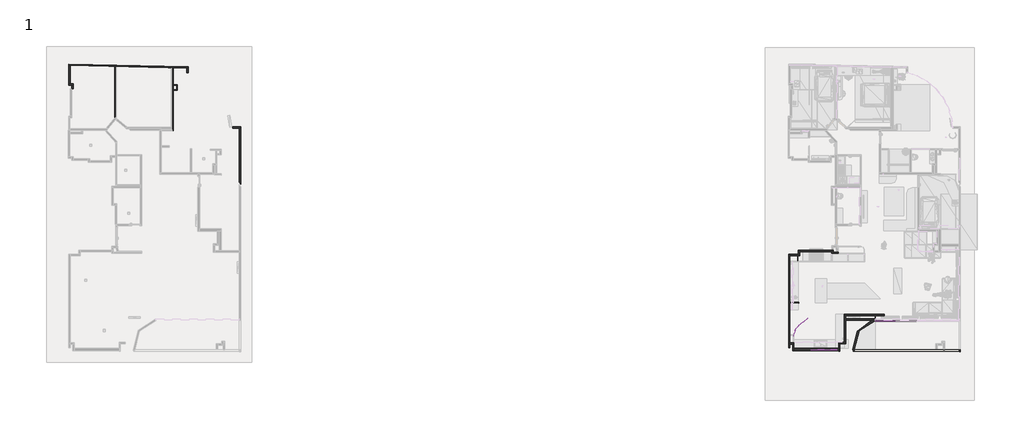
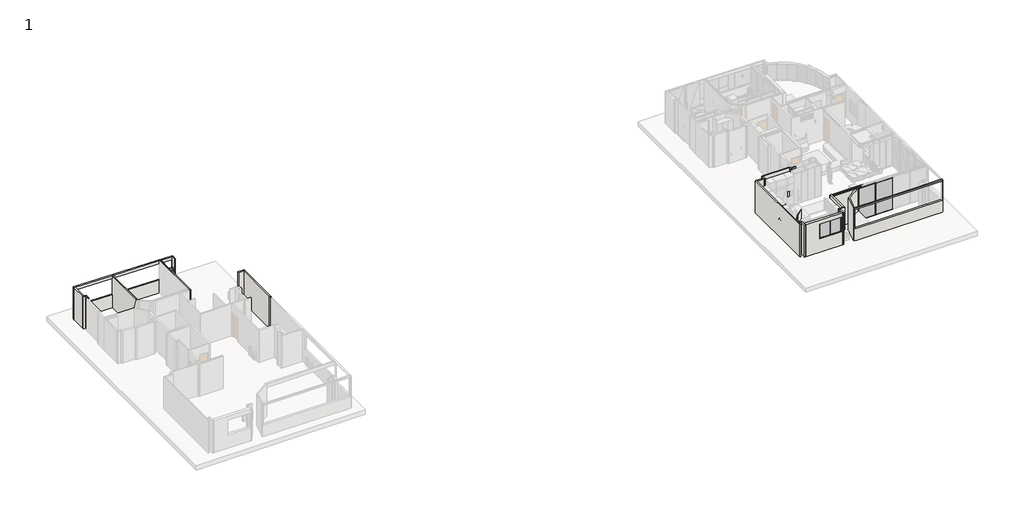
# One storey, part 4 of 11: 40 walls, 12 members, 4 plates.
"""IFC4 building model written with IfcOpenShell, lengths in millimetres."""

from ifc_helpers import new_model, si_unit, point, frame, frame_2d, origin, origin_with_axes, place, context, project, spatial, polyline, circle_curve, trimmed, segment, composite_curve, outline, extrude, faceted_brep, transform, mapped, element, save
from ifc_brep_helpers import plane_surface, cylinder_surface, revolved_surface, advanced_brep
from components import rectangular_mullion_30mm_square_bb45b953, rectangular_mullion_30mm_square_374e1ff5, rectangular_mullion_30mm_square_060a85df, rectangular_mullion_30mm_square_b1d1f039, rectangular_mullion_30mm_square_151e444d, rectangular_mullion_30mm_square_53f41a94, rectangular_mullion_30mm_square_fba6741d

model = new_model("IFC4")

# Units and contexts
model_context = context("Model", 3, world=origin())
ifc_project = project(units=[si_unit("LENGTHUNIT", "METRE", prefix="MILLI")], contexts=[model_context])

# Site, building, storey
site = spatial("IfcSite", under=ifc_project)
building = spatial("IfcBuilding", under=site)
storey = spatial("IfcBuildingStorey", under=building, Name="1", Elevation=0.0)

# Members
placement = place(None, origin())
rectangular_mullion_30mm_square_shape = rectangular_mullion_30mm_square_bb45b953(model_context)
element("IfcMember", 1, ObjectType="Rectangular Mullion : 30mm Square", at=placement, inside=storey, context=model_context, shape_type="MappedRepresentation", body=[
    mapped(rectangular_mullion_30mm_square_shape, transform((93676.9863057, 7842.3363239, 2930.0), x_axis=(-1.0, 0.0, 0.0), y_axis=(0.0, -1.0, 0.0), z_axis=(0.0, 0.0, 1.0))),
])
rectangular_mullion_30mm_square_2_shape = rectangular_mullion_30mm_square_374e1ff5(model_context)
element("IfcMember", 2, ObjectType="Rectangular Mullion : 30mm Square", at=placement, inside=storey, context=model_context, shape_type="MappedRepresentation", body=[
    mapped(rectangular_mullion_30mm_square_2_shape, transform((90984.049878, 5788.1671184, 1223.3570183), x_axis=(1.0, 0.0, 0.0), y_axis=(0.0, -1.0, 0.0), z_axis=(0.0, 0.0, -1.0))),
])
element("IfcMember", 3, ObjectType="Rectangular Mullion : 30mm Square", at=placement, inside=storey, context=model_context, shape_type="MappedRepresentation", body=[
    mapped(rectangular_mullion_30mm_square_2_shape, transform((89144.049878, 5788.1671184, 2557.176167), x_axis=(-1.0, 0.0, 0.0), y_axis=(0.0, -1.0, 0.0), z_axis=(0.0, 0.0, 1.0))),
])
rectangular_mullion_30mm_square_3_shape = rectangular_mullion_30mm_square_060a85df(model_context)
element("IfcMember", 4, ObjectType="Rectangular Mullion : 30mm Square", at=placement, inside=storey, context=model_context, shape_type="MappedRepresentation", body=[
    mapped(rectangular_mullion_30mm_square_3_shape, transform((90954.049878, 5788.1671184, 2557.176167), x_axis=(0.0, 0.0, 1.0), y_axis=(0.0, -1.0, 0.0), z_axis=(1.0, 0.0, 0.0))),
])
element("IfcMember", 5, ObjectType="Rectangular Mullion : 30mm Square", at=placement, inside=storey, context=model_context, shape_type="MappedRepresentation", body=[
    mapped(rectangular_mullion_30mm_square_3_shape, transform((90049.049878, 5788.1671184, 2557.176167), x_axis=(0.0, 0.0, 1.0), y_axis=(0.0, -1.0, 0.0), z_axis=(1.0, 0.0, 0.0))),
])
element("IfcMember", 6, ObjectType="Rectangular Mullion : 30mm Square", at=placement, inside=storey, context=model_context, shape_type="MappedRepresentation", body=[
    mapped(rectangular_mullion_30mm_square_3_shape, transform((89174.049878, 5788.1671184, 1223.3570183), x_axis=(0.0, 0.0, -1.0), y_axis=(0.0, -1.0, 0.0), z_axis=(-1.0, 0.0, 0.0))),
])
element("IfcMember", 7, ObjectType="Rectangular Mullion : 30mm Square", at=placement, inside=storey, context=model_context, shape_type="MappedRepresentation", body=[
    mapped(rectangular_mullion_30mm_square_3_shape, transform((90079.049878, 5788.1671184, 1223.3570183), x_axis=(0.0, 0.0, -1.0), y_axis=(0.0, -1.0, 0.0), z_axis=(-1.0, 0.0, 0.0))),
])
rectangular_mullion_30mm_square_4_shape = rectangular_mullion_30mm_square_b1d1f039(model_context)
element("IfcMember", 8, ObjectType="Rectangular Mullion : 30mm Square", at=placement, inside=storey, context=model_context, shape_type="MappedRepresentation", body=[
    mapped(rectangular_mullion_30mm_square_4_shape, transform((90064.049878, 5788.1671184, 1223.3570183), x_axis=(1.0, 0.0, 0.0), y_axis=(0.0, -1.0, 0.0), z_axis=(0.0, 0.0, -1.0))),
])
rectangular_mullion_30mm_square_5_shape = rectangular_mullion_30mm_square_151e444d(model_context)
element("IfcMember", 9, ObjectType="Rectangular Mullion : 30mm Square", at=placement, inside=storey, context=model_context, shape_type="MappedRepresentation", body=[
    mapped(rectangular_mullion_30mm_square_5_shape, transform((95158.827292, 7842.3363239, 0.0), x_axis=(1.0, 0.0, 0.0), y_axis=(0.0, -1.0, 0.0), z_axis=(0.0, 0.0, -1.0))),
])
rectangular_mullion_30mm_square_6_shape = rectangular_mullion_30mm_square_53f41a94(model_context)
element("IfcMember", 10, ObjectType="Rectangular Mullion : 30mm Square", at=placement, inside=storey, context=model_context, shape_type="MappedRepresentation", body=[
    mapped(rectangular_mullion_30mm_square_6_shape, transform((95143.827292, 7842.3363239, 2930.0), x_axis=(0.0, 0.0, 1.0), y_axis=(0.0, -1.0, 0.0), z_axis=(1.0, 0.0, 0.0))),
])
rectangular_mullion_30mm_square_7_shape = rectangular_mullion_30mm_square_fba6741d(model_context)
element("IfcMember", 11, ObjectType="Rectangular Mullion : 30mm Square", at=placement, inside=storey, context=model_context, shape_type="MappedRepresentation", body=[
    mapped(rectangular_mullion_30mm_square_7_shape, transform((95173.827292, 7842.3363239, 0.0), x_axis=(0.0, 0.0, -1.0), y_axis=(0.0, -1.0, 0.0), z_axis=(-1.0, 0.0, 0.0))),
])
element("IfcMember", 12, ObjectType="Rectangular Mullion : 30mm Square", at=placement, inside=storey, context=model_context, shape_type="MappedRepresentation", body=[
    mapped(rectangular_mullion_30mm_square_6_shape, transform((93706.9863057, 7842.3363239, 0.0), x_axis=(0.0, 0.0, -1.0), y_axis=(0.0, -1.0, 0.0), z_axis=(-1.0, 0.0, 0.0))),
])

# Plates
element("IfcPlate", 13, ObjectType="glass", at=placement, inside=storey, context=model_context, shape_type="SweptSolid", body=[
    extrude(outline(polyline([(95143.827292, 7839.8363239), (93706.9863057, 7839.8363239), (93706.9863057, 7844.8363239), (95143.827292, 7844.8363239), (95143.827292, 7839.8363239)])), frame((0.0, 0.0, 30.0), z_axis=(0.0, 0.0, 1.0), x_axis=(1.0, 0.0, 0.0)), (0.0, 0.0, 1.0), 2870.0),
])
element("IfcPlate", 14, ObjectType="glass", at=placement, inside=storey, context=model_context, shape_type="SweptSolid", body=[
    extrude(outline(polyline([(90049.049878, 5785.6671184), (89174.049878, 5785.6671184), (89174.049878, 5790.6671184), (90049.049878, 5790.6671184), (90049.049878, 5785.6671184)])), frame((0.0, 0.0, 1253.3570183), z_axis=(0.0, 0.0, 1.0), x_axis=(1.0, 0.0, 0.0)), (0.0, 0.0, 1.0), 1273.8191487),
])
element("IfcPlate", 15, ObjectType="glass", at=placement, inside=storey, context=model_context, shape_type="SweptSolid", body=[
    extrude(outline(polyline([(90954.049878, 5785.6671184), (90079.049878, 5785.6671184), (90079.049878, 5790.6671184), (90954.049878, 5790.6671184), (90954.049878, 5785.6671184)])), frame((0.0, 0.0, 1253.3570183), z_axis=(0.0, 0.0, 1.0), x_axis=(1.0, 0.0, 0.0)), (0.0, 0.0, 1.0), 1273.8191487),
])
element("IfcPlate", 16, ObjectType="glass", at=placement, inside=storey, context=model_context, shape_type="SweptSolid", body=[
    extrude(outline(polyline([(96625.6682783, 7839.8363239), (95173.827292, 7839.8363239), (95173.827292, 7844.8363239), (96625.6682783, 7844.8363239), (96625.6682783, 7839.8363239)])), frame((0.0, 0.0, 30.0), z_axis=(0.0, 0.0, 1.0), x_axis=(1.0, 0.0, 0.0)), (0.0, 0.0, 1.0), 2870.0),
])

# Walls
element("IfcWall", 17, ObjectType=".016", at=placement, inside=storey, context=model_context, shape_type="Brep", body=[
    faceted_brep([(87953.0220654, 6430.7518002, 23.0699746), (91420.7651962, 6430.7518002, 23.0699746), (91420.7651962, 6430.7518002, 100.0), (87953.0220654, 6430.7518002, 100.0), (87953.0220654, 6446.7518002, 23.0699746), (87953.0220654, 6446.7518002, 100.0), (90915.9995895, 6446.7518002, 100.0), (90931.9995895, 6446.7518002, 100.0), (91420.7651962, 6446.7518002, 100.0), (91420.7651962, 6446.7518002, 23.0699746)], [[[0, 1, 2, 3]], [[4, 5, 6, 7, 8, 9]], [[1, 0, 4, 9]], [[2, 1, 9, 8]], [[3, 2, 8, 7, 6, 5]], [[0, 3, 5, 4]]]),
])
element("IfcWall", 18, ObjectType=".016", at=placement, inside=storey, context=model_context, shape_type="SweptSolid", body=[
    extrude(outline(polyline([(93677.1267853, 8214.6339771), (93677.1267853, 7976.1964771), (93661.1267853, 7976.1964771), (93661.1267853, 8214.6339771), (93677.1267853, 8214.6339771)])), origin_with_axes(), (0.0, 0.0, 1.0), 100.0),
])
element("IfcWall", 19, ObjectType=".016", at=placement, inside=storey, context=model_context, shape_type="Brep", body=[
    faceted_brep([(89979.6409184, 12063.0538927, 16.8116086), (89979.6409184, 12744.7827136, 16.8116086), (89979.6409184, 12744.7827136, 100.0), (89979.6409184, 12079.0538927, 100.0), (89979.6409184, 12063.0538927, 100.0), (89979.6409184, 12063.0538927, 17.2237934), (89963.6409184, 12063.0538927, 16.8116086), (89963.6409184, 12063.0538927, 100.0), (89963.6409184, 12744.7827136, 100.0), (89963.6409184, 12744.7827136, 16.8116086)], [[[0, 1, 2, 3, 4, 5]], [[6, 7, 8, 9]], [[1, 0, 6, 9]], [[4, 3, 2, 8, 7]], [[2, 1, 9, 8]], [[0, 5, 4, 7, 6]]]),
])
element("IfcWall", 20, ObjectType=".016", at=placement, inside=storey, context=model_context, shape_type="Brep", body=[
    faceted_brep([(89002.2119206, 12071.0538927, 17.2237934), (88179.985489, 12071.0538927, 17.2237934), (88179.985489, 12071.0538927, 100.0), (88986.2119206, 12071.0538927, 100.0), (89002.2119206, 12071.0538927, 100.0), (89002.2119206, 12071.0538927, 21.3647211), (89002.2119206, 12055.0538927, 17.2237934), (89002.2119206, 12055.0538927, 100.0), (88179.985489, 12055.0538927, 100.0), (88179.985489, 12055.0538927, 17.2237934)], [[[0, 1, 2, 3, 4, 5]], [[6, 7, 8, 9]], [[1, 0, 6, 9]], [[4, 3, 2, 8, 7]], [[0, 5, 4, 7, 6]], [[2, 1, 9, 8]]]),
])
element("IfcWall", 21, ObjectType=".016", at=placement, inside=storey, context=model_context, shape_type="SweptSolid", body=[
    extrude(outline(polyline([(89002.2119206, 12744.7827136), (89002.2119206, 12071.0538927), (88986.2119206, 12071.0538927), (88986.2119206, 12744.7827136), (89002.2119206, 12744.7827136)])), frame((0.0, 0.0, 21.3647211), z_axis=(0.0, 0.0, 1.0), x_axis=(1.0, 0.0, 0.0)), (0.0, 0.0, 1.0), 78.6352789),
])
element("IfcWall", 22, ObjectType=".016", at=placement, inside=storey, context=model_context, shape_type="SweptSolid", body=[
    extrude(outline(polyline([(88163.985489, 9110.0040337), (88163.985489, 12455.0873768), (88179.985489, 12455.0873768), (88179.985489, 9110.0040337), (88163.985489, 9110.0040337)])), frame((0.0, 0.0, 17.7845082), z_axis=(0.0, 0.0, 1.0), x_axis=(1.0, 0.0, 0.0)), (0.0, 0.0, 1.0), 366.848168),
])
element("IfcWall", 23, ObjectType=".016", at=placement, inside=storey, context=model_context, shape_type="SweptSolid", body=[
    extrude(outline(polyline([(87622.8142829, 9110.0040337), (88253.3561805, 9110.0040337), (88253.3561805, 9094.0040337), (87622.8142829, 9094.0040337), (87622.8142829, 9110.0040337)])), frame((0.0, 0.0, 28.8079982), z_axis=(0.0, 0.0, 1.0), x_axis=(1.0, 0.0, 0.0)), (0.0, 0.0, 1.0), 71.1920018),
])
element("IfcWall", 24, ObjectType=".016", at=placement, inside=storey, context=model_context, shape_type="SweptSolid", body=[
    extrude(outline(polyline([(90931.9995895, 8238.7518002), (90931.9995895, 6446.7518002), (90915.9995895, 6446.7518002), (90915.9995895, 8238.7518002), (90931.9995895, 8238.7518002)])), frame((0.0, 0.0, 25.9425263), z_axis=(0.0, 0.0, 1.0), x_axis=(1.0, 0.0, 0.0)), (0.0, 0.0, 1.0), 74.0574737),
])
element("IfcWall", 25, ObjectType=".016", at=placement, inside=storey, context=model_context, shape_type="SweptSolid", body=[
    extrude(outline(polyline([(87866.8142829, 6438.7518002), (87866.8142829, 6835.3482917), (87882.8142829, 6835.3482917), (87882.8142829, 6438.7518002), (87866.8142829, 6438.7518002)])), frame((0.0, 0.0, 23.0699746), z_axis=(0.0, 0.0, 1.0), x_axis=(1.0, 0.0, 0.0)), (0.0, 0.0, 1.0), 76.9300254),
])
element("IfcWall", 26, ObjectType=".016", at=placement, inside=storey, context=model_context, shape_type="SweptSolid", body=[
    extrude(outline(polyline([(87622.8142829, 9150.9335121), (88235.1332026, 9150.9335121), (88235.1332026, 9134.9335121), (87622.8142829, 9134.9335121), (87622.8142829, 9150.9335121)])), origin_with_axes(), (0.0, 0.0, 1.0), 2613.4207206),
])
element("IfcWall", 27, ObjectType=".016", at=placement, inside=storey, context=model_context, shape_type="SweptSolid", body=[
    extrude(outline(polyline([(88240.9722187, 7514.7416805), (88863.6814506, 8019.0016738), (88873.7505768, 8006.5673384), (88251.041345, 7502.3073451), (88240.9722187, 7514.7416805)])), frame((0.0, 0.0, 1814.7478366), z_axis=(0.0, 0.0, 1.0), x_axis=(1.0, 0.0, 0.0)), (0.0, 0.0, 1.0), 798.672884),
])
element("IfcWall", 28, ObjectType=".016", at=placement, inside=storey, context=model_context, shape_type="SweptSolid", body=[
    extrude(outline(composite_curve([segment(polyline([(87898.1543572, 6762.4643898), (87882.1543572, 6762.4643898)]), True, "CONTINUOUS"), segment(trimmed(circle_curve(frame_2d((88850.1543572, 6762.4643898)), 968.0), [point((87882.1543572, 6762.4643898))], [point((88240.9722187, 7514.7416805))], False, "CARTESIAN"), True, "CONTINUOUS"), segment(polyline([(88240.9722187, 7514.7416805), (88251.041345, 7502.3073451)]), True, "CONTINUOUS"), segment(trimmed(circle_curve(frame_2d((88850.1543572, 6762.4643898)), 952.0), [point((88251.041345, 7502.3073451))], [point((87898.1543572, 6762.4643898))], True, "CARTESIAN"), True, "CONTINUOUS")], self_intersect=False)), frame((0.0, 0.0, 1814.7478366), z_axis=(0.0, 0.0, 1.0), x_axis=(1.0, 0.0, 0.0)), (0.0, 0.0, 1.0), 798.672884),
])
element("IfcWall", 29, ObjectType="10", at=placement, inside=storey, context=model_context, shape_type="Brep", body=[
    faceted_brep([(48698.9736341, 21589.5481667, 0.0), (48148.9689674, 21589.5481667, 0.0), (48148.9689674, 21589.5481667, 2930.0), (48698.9736341, 21589.5481667, 2930.0), (48698.9736341, 21489.5481667, 0.0), (48698.9736341, 21489.5481667, 2930.0), (48598.9736341, 21489.5481667, 2930.0), (48148.9689674, 21489.5481667, 2930.0), (48148.9689674, 21489.5481667, 0.0), (48598.9736341, 21489.5481667, 0.0)], [[[0, 1, 2, 3]], [[4, 5, 6, 7, 8, 9]], [[1, 0, 4, 9, 8]], [[2, 1, 8, 7]], [[3, 2, 7, 6, 5]], [[0, 3, 5, 4]]]),
])
element("IfcWall", 30, ObjectType="10", at=placement, inside=storey, context=model_context, shape_type="Brep", body=[
    faceted_brep([(44968.0231854, 25847.8679849, 0.0), (36529.1834516, 26036.4139166, 0.0), (36529.1834516, 26036.4139166, 2930.0), (44968.0231854, 25847.8679849, 2930.0), (44885.2568917, 25849.7172022, 2650.0), (36625.0479892, 26034.2720501, 2650.0), (36625.0479892, 26034.2720501, 1210.0), (44885.2568917, 25849.7172022, 1210.0), (44968.0231854, 25747.8430284, 0.0), (44968.0231854, 25747.8430284, 2930.0), (44878.0231854, 25749.8538657, 2930.0), (43934.7838788, 25770.928319, 2930.0), (43884.7838788, 25772.0454508, 2930.0), (43832.0328941, 25773.2240469, 2930.0), (43782.0328941, 25774.3411788, 2930.0), (39895.5964247, 25861.1744175, 2930.0), (39845.5964247, 25862.2915493, 2930.0), (39840.4867294, 25862.4057134, 2930.0), (39790.4867294, 25863.5228452, 2930.0), (36629.1834516, 25934.1546964, 2930.0), (36529.1834516, 25936.38896, 2930.0), (36529.1834516, 25936.38896, 0.0), (36629.1834516, 25934.1546964, 0.0), (39790.4867294, 25863.5228452, 0.0), (39840.4867294, 25862.4057134, 0.0), (39845.5964247, 25862.2915493, 0.0), (39895.5964247, 25861.1744175, 0.0), (43782.0328941, 25774.3411788, 0.0), (43832.0328941, 25773.2240469, 0.0), (43884.7838788, 25772.0454508, 0.0), (43934.7838788, 25770.928319, 0.0), (44878.0231854, 25749.8538657, 0.0), (44883.0231854, 25749.7421525, 2650.0), (44883.0231854, 25749.7421525, 1210.0), (36622.8142829, 25934.2970004, 1210.0), (36622.8142829, 25934.2970004, 2650.0)], [[[0, 1, 2, 3], [4, 5, 6, 7]], [[8, 9, 10, 11, 12, 13, 14, 15, 16, 17, 18, 19, 20, 21, 22, 23, 24, 25, 26, 27, 28, 29, 30, 31], [32, 33, 34, 35]], [[2, 1, 21, 20]], [[1, 0, 8, 31, 30, 29, 28, 27, 26, 25, 24, 23, 22, 21]], [[3, 2, 20, 19, 18, 17, 16, 15, 14, 13, 12, 11, 10, 9]], [[5, 4, 32, 35]], [[6, 5, 35, 34]], [[7, 6, 34, 33]], [[4, 7, 33, 32]], [[0, 3, 9, 8]]]),
])
element("IfcWall", 31, ObjectType="10", at=placement, inside=storey, context=model_context, shape_type="SweptSolid", body=[
    extrude(outline(polyline([(36629.1834516, 25934.1546964), (36629.1834516, 24639.2985284), (36529.1834516, 24639.2985284), (36529.1834516, 25936.38896), (36629.1834516, 25934.1546964)])), origin_with_axes(), (0.0, 0.0, 1.0), 2930.0),
])
element("IfcWall", 32, ObjectType="10", at=placement, inside=storey, context=model_context, shape_type="Brep", body=[
    faceted_brep([(36829.253874, 24639.2985284, 0.0), (36629.1834516, 24639.2985284, 0.0), (36529.1834516, 24639.2985284, 0.0), (36529.1834516, 24639.2985284, 2930.0), (36629.1834516, 24639.2985284, 2930.0), (36829.253874, 24639.2985284, 2930.0), (36829.253874, 24539.2985284, 0.0), (36829.253874, 24539.2985284, 2930.0), (36729.253874, 24539.2985284, 2930.0), (36529.1834516, 24539.2985284, 2930.0), (36529.1834516, 24539.2985284, 0.0), (36729.253874, 24539.2985284, 0.0)], [[[0, 1, 2, 3, 4, 5]], [[6, 7, 8, 9, 10, 11]], [[2, 1, 0, 6, 11, 10]], [[5, 4, 3, 9, 8, 7]], [[3, 2, 10, 9]], [[0, 5, 7, 6]]]),
])
element("IfcWall", 33, ObjectType="10", at=placement, inside=storey, context=model_context, shape_type="Brep", body=[
    faceted_brep([(36829.253874, 24276.9082853, 0.0), (36829.253874, 24539.2985284, 0.0), (36829.253874, 24539.2985284, 2930.0), (36829.253874, 24276.9082853, 2930.0), (36729.253874, 24276.9082853, 0.0), (36729.253874, 24276.9082853, 2930.0), (36729.253874, 24539.2985284, 2930.0), (36729.253874, 24539.2985284, 0.0), (36735.0362797, 24276.9082853, 0.0), (36735.0362797, 24276.9082853, 2930.0)], [[[0, 1, 2, 3]], [[4, 5, 6, 7]], [[1, 0, 8, 4, 7]], [[3, 2, 6, 5, 9]], [[0, 3, 9, 5, 4, 8]], [[2, 1, 7, 6]]]),
])
element("IfcWall", 34, ObjectType="10", at=placement, inside=storey, context=model_context, shape_type="SweptSolid", body=[
    extrude(outline(composite_curve([segment(polyline([(48598.9736341, 17654.3597181), (48598.9736341, 21489.5481667), (48698.9736341, 21489.5481667), (48698.9736341, 17533.5268358)]), True, "CONTINUOUS"), segment(trimmed(circle_curve(frame_2d((47230.1632712, 16419.7510067)), 1843.3394913), [point((48698.9736341, 17533.5268358))], [point((48598.9736341, 17654.3597181))], True, "CARTESIAN"), True, "CONTINUOUS")], self_intersect=False)), origin_with_axes(), (0.0, 0.0, 1.0), 2930.0),
])
element("IfcWall", 35, ObjectType="10", at=placement, inside=storey, context=model_context, shape_type="Brep", body=[
    faceted_brep([(87622.8142829, 5916.6071045, 0.0), (87622.8142829, 6185.5679647, 0.0), (87622.8142829, 6285.5679647, 0.0), (87622.8142829, 9134.9335121, 0.0), (87622.8142829, 9150.9335121, 0.0), (87622.8142829, 12455.0873768, 0.0), (87622.8142829, 12555.0873768, 0.0), (87622.8142829, 12555.0873768, 2930.0), (87622.8142829, 12455.0873768, 2930.0), (87622.8142829, 6285.5679647, 2930.0), (87622.8142829, 6185.5679647, 2930.0), (87622.8142829, 5916.6071045, 2930.0), (87622.8142829, 8494.3835121, 599.1397939), (87622.8142829, 8494.3835121, 680.2897939), (87622.8142829, 8575.4835121, 680.2897939), (87622.8142829, 8575.4835121, 599.1397939), (87522.8142829, 12555.0873768, 0.0), (87522.8142829, 5916.6071045, 0.0), (87522.8142829, 5916.6071045, 2930.0), (87522.8142829, 12555.0873768, 2930.0), (87597.8142829, 8494.3835121, 680.2897939), (87597.8142829, 8494.3835121, 599.1397939), (87597.8142829, 8575.4835121, 599.1397939), (87597.8142829, 8575.4835121, 680.2897939)], [[[0, 1, 2, 3, 4, 5, 6, 7, 8, 9, 10, 11], [12, 13, 14, 15]], [[16, 17, 18, 19]], [[6, 5, 4, 3, 2, 1, 0, 17, 16]], [[11, 10, 9, 8, 7, 19, 18]], [[0, 11, 18, 17]], [[7, 6, 16, 19]], [[20, 21, 22, 23]], [[21, 20, 13, 12]], [[22, 21, 12, 15]], [[23, 22, 15, 14]], [[20, 23, 14, 13]]]),
])
element("IfcWall", 36, ObjectType="10", at=placement, inside=storey, context=model_context, shape_type="SweptSolid", body=[
    extrude(outline(polyline([(88223.5455637, 12455.0873768), (87622.8142829, 12455.0873768), (87622.8142829, 12555.0873768), (88223.5455637, 12555.0873768), (88223.5455637, 12455.0873768)])), origin_with_axes(), (0.0, 0.0, 1.0), 2930.0),
])
element("IfcWall", 37, ObjectType="10", at=placement, inside=storey, context=model_context, shape_type="Brep", body=[
    faceted_brep([(88323.5455637, 12455.0873768, 0.0), (88323.5455637, 12744.7827136, 0.0), (88323.5455637, 12844.7827136, 0.0), (88323.5455637, 12844.7827136, 2930.0), (88323.5455637, 12744.7827136, 2930.0), (88323.5455637, 12455.0873768, 2930.0), (88223.5455637, 12455.0873768, 0.0), (88223.5455637, 12455.0873768, 2930.0), (88223.5455637, 12555.0873768, 2930.0), (88223.5455637, 12844.7827136, 2930.0), (88223.5455637, 12844.7827136, 0.0), (88223.5455637, 12555.0873768, 0.0)], [[[0, 1, 2, 3, 4, 5]], [[6, 7, 8, 9, 10, 11]], [[2, 1, 0, 6, 11, 10]], [[5, 4, 3, 9, 8, 7]], [[3, 2, 10, 9]], [[0, 5, 7, 6]]]),
])
element("IfcWall", 38, ObjectType="10", at=placement, inside=storey, context=model_context, shape_type="Brep", body=[
    faceted_brep([(88323.5455637, 12744.7827136, 0.0), (90577.8549068, 12744.7827136, 0.0), (90577.8549068, 12744.7827136, 2930.0), (88323.5455637, 12744.7827136, 2930.0), (89795.4059803, 12744.7827136, 620.9952018), (89795.4059803, 12744.7827136, 702.1452018), (89876.5059803, 12744.7827136, 702.1452018), (89876.5059803, 12744.7827136, 620.9952018), (90055.4059803, 12744.7827136, 623.4156648), (90055.4059803, 12744.7827136, 704.5656648), (90136.5059803, 12744.7827136, 704.5656648), (90136.5059803, 12744.7827136, 623.4156648), (90577.8549068, 12844.7827136, 0.0), (90575.9559803, 12844.7827136, 0.0), (88323.5455637, 12844.7827136, 0.0), (88323.5455637, 12844.7827136, 2930.0), (90575.9559803, 12844.7827136, 2930.0), (90577.8549068, 12844.7827136, 2930.0), (89795.4059803, 12769.7827136, 702.1452018), (89795.4059803, 12769.7827136, 620.9952018), (89876.5059803, 12769.7827136, 620.9952018), (89876.5059803, 12769.7827136, 702.1452018), (90055.4059803, 12769.7827136, 704.5656648), (90055.4059803, 12769.7827136, 623.4156648), (90136.5059803, 12769.7827136, 623.4156648), (90136.5059803, 12769.7827136, 704.5656648)], [[[0, 1, 2, 3], [4, 5, 6, 7], [8, 9, 10, 11]], [[12, 13, 14, 15, 16, 17]], [[1, 0, 14, 13, 12]], [[3, 2, 17, 16, 15]], [[0, 3, 15, 14]], [[2, 1, 12, 17]], [[18, 19, 20, 21]], [[19, 18, 5, 4]], [[20, 19, 4, 7]], [[21, 20, 7, 6]], [[18, 21, 6, 5]], [[22, 23, 24, 25]], [[23, 22, 9, 8]], [[24, 23, 8, 11]], [[25, 24, 11, 10]], [[22, 25, 10, 9]]]),
])
element("IfcWall", 39, ObjectType="10", at=placement, inside=storey, context=model_context, shape_type="Brep", body=[
    faceted_brep([(90577.8549068, 12844.7827136, 0.0), (90577.8549068, 12744.7827136, 0.0), (90577.8549068, 12616.7518002, 0.0), (90577.8549068, 12616.7518002, 2930.0), (90577.8549068, 12744.7827136, 2930.0), (90577.8549068, 12844.7827136, 2930.0), (90677.8549068, 12844.7827136, 0.0), (90677.8549068, 12844.7827136, 2930.0), (90677.8549068, 12716.7518002, 2930.0), (90677.8549068, 12616.7518002, 2930.0), (90677.8549068, 12616.7518002, 0.0), (90677.8549068, 12716.7518002, 0.0), (90675.9559803, 12844.7827136, 0.0), (90675.9559803, 12844.7827136, 2930.0)], [[[0, 1, 2, 3, 4, 5]], [[6, 7, 8, 9, 10, 11]], [[2, 1, 0, 12, 6, 11, 10]], [[5, 4, 3, 9, 8, 7, 13]], [[0, 5, 13, 7, 6, 12]], [[3, 2, 10, 9]]]),
])
element("IfcWall", 40, ObjectType="10", at=placement, inside=storey, context=model_context, shape_type="Brep", body=[
    faceted_brep([(91038.8774986, 12716.7518002, 0.0), (91006.8774986, 12716.7518002, 0.0), (90937.7574017, 12716.7518002, 0.0), (90677.8549068, 12716.7518002, 0.0), (90677.8549068, 12716.7518002, 2930.0), (90937.7574017, 12716.7518002, 2930.0), (91006.8774986, 12716.7518002, 2930.0), (91038.8774986, 12716.7518002, 2930.0), (91038.8774986, 12616.7518002, 0.0), (91038.8774986, 12616.7518002, 2930.0), (90677.8549068, 12616.7518002, 2930.0), (90677.8549068, 12616.7518002, 0.0)], [[[0, 1, 2, 3, 4, 5, 6, 7]], [[8, 9, 10, 11]], [[3, 2, 1, 0, 8, 11]], [[7, 6, 5, 4, 10, 9]], [[4, 3, 11, 10]], [[0, 7, 9, 8]]]),
])
element("IfcWall", 41, ObjectType="10", at=placement, inside=storey, context=model_context, shape_type="Brep", body=[
    faceted_brep([(87905.0220654, 6285.5679647, 0.0), (87622.8142829, 6285.5679647, 0.0), (87622.8142829, 6285.5679647, 2930.0), (87905.0220654, 6285.5679647, 2930.0), (87905.0220654, 6185.5679647, 0.0), (87905.0220654, 6185.5679647, 2930.0), (87805.0220654, 6185.5679647, 2930.0), (87622.8142829, 6185.5679647, 2930.0), (87622.8142829, 6185.5679647, 0.0), (87805.0220654, 6185.5679647, 0.0)], [[[0, 1, 2, 3]], [[4, 5, 6, 7, 8, 9]], [[1, 0, 4, 9, 8]], [[3, 2, 7, 6, 5]], [[2, 1, 8, 7]], [[0, 3, 5, 4]]]),
])
element("IfcWall", 42, ObjectType="10", at=placement, inside=storey, context=model_context, shape_type="Brep", body=[
    faceted_brep([(87905.0220654, 5726.5966649, 0.0), (87905.0220654, 5916.6071045, 0.0), (87905.0220654, 6185.5679647, 0.0), (87905.0220654, 6185.5679647, 2930.0), (87905.0220654, 5916.6071045, 2930.0), (87905.0220654, 5726.5966649, 2930.0), (87805.0220654, 5727.6449618, 0.0), (87805.0220654, 5727.6449618, 2930.0), (87805.0220654, 6185.5679647, 2930.0), (87805.0220654, 6185.5679647, 0.0)], [[[0, 1, 2, 3, 4, 5]], [[6, 7, 8, 9]], [[2, 1, 0, 6, 9]], [[5, 4, 3, 8, 7]], [[3, 2, 9, 8]], [[0, 5, 7, 6]]]),
])
element("IfcWall", 43, ObjectType="10", at=placement, inside=storey, context=model_context, shape_type="Brep", body=[
    faceted_brep([(91566.7223294, 7876.1964771, 0.0), (93407.3479479, 7876.1964771, 0.0), (93670.6672906, 7876.1964771, 0.0), (93677.1267853, 7876.1964771, 0.0), (93677.1267853, 7876.1964771, 2611.1290448), (93670.6672906, 7876.1964771, 2611.1290448), (93669.1267853, 7876.1964771, 2611.1290448), (93669.1267853, 7876.1964771, 2930.0), (93407.3479479, 7876.1964771, 2930.0), (91566.7223294, 7876.1964771, 2930.0), (91566.7223294, 7976.1964771, 0.0), (91566.7223294, 7976.1964771, 2930.0), (93669.1267853, 7976.1964771, 2930.0), (93669.1267853, 7976.1964771, 2611.1290448), (93677.1267853, 7976.1964771, 2611.1290448), (93677.1267853, 7976.1964771, 100.0), (93677.1267853, 7976.1964771, 0.0), (93661.1267853, 7976.1964771, 0.0), (93669.1267853, 7884.4512043, 2930.0), (93669.1267853, 7884.4512043, 2611.1290448)], [[[0, 1, 2, 3, 4, 5, 6, 7, 8, 9]], [[10, 11, 12, 13, 14, 15, 16, 17]], [[3, 2, 1, 0, 10, 17, 16]], [[9, 8, 7, 18, 12, 11]], [[7, 6, 19, 13, 12, 18]], [[13, 19, 6, 5, 4, 14]], [[4, 3, 16, 15, 14]], [[0, 9, 11, 10]]]),
])
element("IfcWall", 44, ObjectType="10", at=placement, inside=storey, context=model_context, shape_type="AdvancedBrep", body=[
    advanced_brep(
    [(92174.4631437, 5841.9654055, 2930.0), (93676.9863057, 7842.3363239, 2930.0), (93669.1267853, 7884.4512043, 2930.0), (93669.1267853, 7876.1964771, 2930.0), (93407.3479479, 7876.1964771, 2930.0), (92073.9569016, 5842.5065804, 2930.0), (93676.9863057, 7842.3363239, 0.0), (92174.4631437, 5841.9654055, 0.0), (92073.9569016, 5842.5065804, 0.0), (93407.3479479, 7876.1964771, 0.0), (93670.6672906, 7876.1964771, 0.0), (93670.6672906, 7876.1964771, 2611.1290448), (93669.1267853, 7884.4512043, 2611.1290448), (93669.1267853, 7876.1964771, 2611.1290448)],
    [
        (0, 1, circle_curve(frame((94016.5482861, 6022.8089859, 2930.0), z_axis=(0.0, 0.0, -1.0), x_axis=(1.0, 0.0, 0.0)), 1850.9408614)),
        (1, 2),
        (2, 3),
        (3, 4),
        (4, 5, circle_curve(frame((94016.5482861, 6022.8089859, 2930.0), z_axis=(0.0, 0.0, 1.0), x_axis=(1.0, 0.0, 0.0)), 1950.9408614)),
        (5, 0),
        (6, 7, circle_curve(frame((94016.5482861, 6022.8089859, 0.0), z_axis=(0.0, 0.0, 1.0), x_axis=(1.0, 0.0, 0.0)), 1850.9408614)),
        (7, 8),
        (8, 9, circle_curve(frame((94016.5482861, 6022.8089859, 0.0), z_axis=(0.0, 0.0, -1.0), x_axis=(1.0, 0.0, 0.0)), 1950.9408614)),
        (9, 10),
        (10, 6),
        (0, 7),
        (6, 1),
        (10, 11),
        (11, 12),
        (12, 2),
        (8, 5),
        (4, 9),
        (3, 13),
        (13, 11),
        (12, 13),
    ],
    [
        plane_surface(frame((95867.4891475, 6022.8089859, 2930.0), z_axis=(0.0, 0.0, 1.0), x_axis=(0.0, -1.0, 0.0))),
        plane_surface(frame((95867.4891475, 6022.8089859, 0.0), z_axis=(0.0, 0.0, -1.0), x_axis=(0.0, 1.0, 0.0))),
        revolved_surface(polyline([(95867.4891475, 6022.8089859, 0.0), (95867.4891475, 6022.8089859, 2930.0)]), (94016.5482861, 6022.8089859, 0.0), (0.0, 0.0, -1.0)),
        plane_surface(frame((93676.9863057, 7842.3363239, 2930.0), z_axis=(0.9830283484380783, 0.18345371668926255, 0.0), x_axis=(0.0, 0.0, -1.0))),
        cylinder_surface(frame((94016.5482861, 6022.8089859, 0.0), z_axis=(0.0, 0.0, 1.0), x_axis=(1.0, 0.0, 0.0)), 1950.9408614),
        plane_surface(frame((91627.1267853, 7876.1964771, 0.0), z_axis=(0.0, 1.0, 0.0), x_axis=(1.0, 0.0, 0.0))),
        plane_surface(frame((92133.2764007, 5842.1871751, 0.0), z_axis=(-0.005384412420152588, -0.9999855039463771, 0.0), x_axis=(-0.9999855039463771, 0.005384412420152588, 0.0))),
        plane_surface(frame((93669.1267853, 7876.1964771, 0.0), z_axis=(-1.0, 0.0, 0.0), x_axis=(0.0, 1.0, 0.0))),
        plane_surface(frame((93669.1267853, 7876.1964771, 2611.1290448), z_axis=(0.0, 0.0, -1.0), x_axis=(1.0, 0.0, 0.0))),
    ],
    [
        (0, [[1, 2, 3, 4, 5, 6]]),
        (1, [[7, 8, 9, 10, 11]]),
        (2, [[-1, 12, -7, 13]]),
        (3, [[-13, -11, 14, 15, 16, -2]]),
        (4, [[17, -5, 18, -9]]),
        (5, [[19, 20, -14, -10, -18, -4]]),
        (6, [[-8, -12, -6, -17]]),
        (7, [[-19, -3, -16, 21]]),
        (8, [[-20, -21, -15]]),
    ],
),
])
element("IfcWall", 45, ObjectType="10", at=placement, inside=storey, context=model_context, shape_type="Brep", body=[
    faceted_brep([(91566.7223294, 6309.713032, 0.0), (91566.7223294, 7876.1964771, 0.0), (91566.7223294, 7976.1964771, 0.0), (91566.7223294, 8214.6339771, 0.0), (91566.7223294, 8214.6339771, 2930.0), (91566.7223294, 7976.1964771, 2930.0), (91566.7223294, 7876.1964771, 2930.0), (91566.7223294, 6309.713032, 2930.0), (91466.7223294, 6309.713032, 0.0), (91466.7223294, 6309.713032, 2930.0), (91466.7223294, 8214.6339771, 2930.0), (91466.7223294, 8214.6339771, 2827.5479286), (91466.7223294, 8214.6339771, 0.0)], [[[0, 1, 2, 3, 4, 5, 6, 7]], [[8, 9, 10, 11, 12]], [[3, 2, 1, 0, 8, 12]], [[7, 6, 5, 4, 10, 9]], [[0, 7, 9, 8]], [[4, 3, 12, 11, 10]]]),
])
element("IfcWall", 46, ObjectType="15", at=placement, inside=storey, context=model_context, shape_type="AdvancedBrep", body=[
    advanced_brep(
    [(92093.7902229, 5692.3976136, 0.0), (99683.9459851, 5651.5284922, 0.0), (99683.9459851, 5651.5284922, 2930.0), (92093.7902229, 5692.3976136, 2930.0), (92173.7400478, 5691.9671246, 2820.0), (99660.9861681, 5651.6521191, 2820.0), (99660.9861681, 5651.6521191, 1100.0), (92173.7400478, 5691.9671246, 1100.0), (92073.9569016, 5842.5065804, 0.0), (92073.9569016, 5842.5065804, 2930.0), (92174.4631437, 5841.9654055, 2930.0), (97965.2041986, 5810.7852154, 2930.0), (98065.2041986, 5810.2467664, 2930.0), (98477.6477055, 5808.0259683, 2930.0), (98577.6477055, 5807.4875192, 2930.0), (99684.7536469, 5801.5263178, 2930.0), (99684.7536469, 5801.5263178, 0.0), (98577.6477055, 5807.4875192, 0.0), (98477.6477055, 5808.0259683, 0.0), (98065.2041986, 5810.2467664, 0.0), (97965.2041986, 5810.7852154, 0.0), (92174.4631437, 5841.9654055, 0.0), (92174.5477097, 5841.9649502, 2820.0), (92174.5477097, 5841.9649502, 1100.0), (99661.7938299, 5801.6499447, 1100.0), (99661.7938299, 5801.6499447, 2820.0)],
    [
        (0, 1),
        (1, 2),
        (2, 3),
        (3, 0),
        (4, 5),
        (5, 6),
        (6, 7),
        (7, 4),
        (8, 9),
        (9, 10),
        (10, 11),
        (11, 12),
        (12, 13),
        (13, 14),
        (14, 15),
        (15, 16),
        (16, 17),
        (17, 18),
        (18, 19),
        (19, 20),
        (20, 21),
        (21, 8),
        (22, 23),
        (23, 24),
        (24, 25),
        (25, 22),
        (0, 8, circle_curve(frame((94016.5482861, 6022.8089859, 0.0), z_axis=(0.0, 0.0, -1.0), x_axis=(1.0, 0.0, 0.0)), 1950.9408614)),
        (16, 1),
        (15, 2),
        (9, 3, circle_curve(frame((94016.5482861, 6022.8089859, 2930.0), z_axis=(0.0, 0.0, 1.0), x_axis=(1.0, 0.0, 0.0)), 1950.9408614)),
        (4, 22),
        (25, 5),
        (24, 6),
        (23, 7),
    ],
    [
        plane_surface(frame((92132.4687389, 5692.1893495, 0.0), z_axis=(-0.005384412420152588, -0.9999855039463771, 0.0), x_axis=(0.9999855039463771, -0.005384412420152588, 0.0))),
        plane_surface(frame((92133.2764007, 5842.1871751, 0.0), z_axis=(0.005384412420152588, 0.9999855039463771, 0.0), x_axis=(-0.9999855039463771, 0.005384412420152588, 0.0))),
        plane_surface(frame((92132.4687389, 5692.1893495, 0.0), z_axis=(0.0, 0.0, -1.0), x_axis=(0.0053844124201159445, 0.9999855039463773, 0.0))),
        plane_surface(frame((99683.9459851, 5651.5284922, 0.0), z_axis=(0.9999855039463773, -0.0053844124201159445, 0.0), x_axis=(0.0053844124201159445, 0.9999855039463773, 0.0))),
        plane_surface(frame((99683.9459851, 5651.5284922, 2930.0), z_axis=(0.0, 0.0, 1.0), x_axis=(0.0053844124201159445, 0.9999855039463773, 0.0))),
        plane_surface(frame((92173.7400478, 5691.9671246, 2820.0), z_axis=(0.0, 0.0, -1.0000000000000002), x_axis=(0.005384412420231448, 0.9999855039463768, 0.0))),
        plane_surface(frame((99660.9861681, 5651.6521191, 2820.0), z_axis=(-0.9999855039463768, 0.005384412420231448, 0.0), x_axis=(0.005384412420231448, 0.9999855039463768, 0.0))),
        plane_surface(frame((99660.9861681, 5651.6521191, 1100.0), z_axis=(0.0, 0.0, 1.0000000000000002), x_axis=(0.005384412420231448, 0.9999855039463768, 0.0))),
        plane_surface(frame((92173.7400478, 5691.9671246, 1100.0), z_axis=(0.9999855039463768, -0.005384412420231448, 0.0), x_axis=(0.005384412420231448, 0.9999855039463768, 0.0))),
        cylinder_surface(frame((94016.5482861, 6022.8089859, 0.0), z_axis=(0.0, 0.0, 1.0), x_axis=(1.0, 0.0, 0.0)), 1950.9408614),
    ],
    [
        (0, [[1, 2, 3, 4], [5, 6, 7, 8]]),
        (1, [[9, 10, 11, 12, 13, 14, 15, 16, 17, 18, 19, 20, 21, 22], [23, 24, 25, 26]]),
        (2, [[-1, 27, -22, -21, -20, -19, -18, -17, 28]]),
        (3, [[-2, -28, -16, 29]]),
        (4, [[-3, -29, -15, -14, -13, -12, -11, -10, 30]]),
        (5, [[-5, 31, -26, 32]]),
        (6, [[-6, -32, -25, 33]]),
        (7, [[-7, -33, -24, 34]]),
        (8, [[-8, -34, -23, -31]]),
        (9, [[-4, -30, -9, -27]]),
    ],
),
])
element("IfcWall", 47, ObjectType="19", at=placement, inside=storey, context=model_context, shape_type="Brep", body=[
    faceted_brep([(87905.0220654, 5726.5966649, 0.0), (91078.0647467, 5693.3337596, 0.0), (91078.0647467, 5693.3337596, 2930.0), (87905.0220654, 5726.5966649, 2930.0), (89141.2784582, 5713.6370286, 1228.0), (89145.6576475, 5713.5911217, 2557.0), (90973.5567749, 5694.4293133, 2546.0), (90980.3763549, 5694.3578239, 1221.0), (87905.0220654, 5916.6071045, 0.0), (87905.0220654, 5916.6071045, 2930.0), (91078.0647467, 5883.3441991, 2930.0), (91078.0647467, 5883.3441991, 0.0), (89143.2701127, 5903.6265896, 1228.0), (90982.3680094, 5884.3473849, 1221.0), (90975.5484294, 5884.4188744, 2546.0), (89147.649302, 5903.5806827, 2557.0)], [[[0, 1, 2, 3], [4, 5, 6, 7]], [[8, 9, 10, 11], [12, 13, 14, 15]], [[2, 1, 11, 10]], [[0, 3, 9, 8]], [[1, 0, 8, 11]], [[3, 2, 10, 9]], [[5, 4, 12, 15]], [[6, 5, 15, 14]], [[7, 6, 14, 13]], [[4, 7, 13, 12]]]),
])
element("IfcWall", 48, ObjectType="5", at=placement, inside=storey, context=model_context, shape_type="SweptSolid", body=[
    extrude(outline(polyline([(39840.4867294, 25862.4057134), (39840.4867294, 22315.7833962), (39790.4867294, 22253.1989564), (39790.4867294, 25863.5228452), (39840.4867294, 25862.4057134)])), origin_with_axes(), (0.0, 0.0, 1.0), 2930.0),
])
element("IfcWall", 49, ObjectType="5", at=placement, inside=storey, context=model_context, shape_type="Brep", body=[
    faceted_brep([(43884.7838788, 25772.0454508, 2930.0), (43884.7838788, 25772.0454508, 0.0), (43884.7838788, 21375.9233453, 0.0), (43884.7838788, 21325.9233453, 0.0), (43884.7838788, 21325.9233453, 2930.0), (43884.7838788, 21375.9233453, 2930.0), (43934.7838788, 25770.928319, 0.0), (43934.7838788, 25770.928319, 2930.0), (43934.7838788, 24579.1842947, 2930.0), (43934.7838788, 24529.1842947, 2930.0), (43934.7838788, 24227.9391232, 2930.0), (43934.7838788, 24177.9391232, 2930.0), (43934.7838788, 21325.9233453, 2930.0), (43934.7838788, 21325.9233453, 0.0), (43934.7838788, 24177.9391232, 0.0), (43934.7838788, 24227.9391232, 0.0), (43934.7838788, 24529.1842947, 0.0), (43934.7838788, 24579.1842947, 0.0)], [[[0, 1, 2, 3, 4, 5]], [[6, 7, 8, 9, 10, 11, 12, 13, 14, 15, 16, 17]], [[3, 2, 1, 6, 17, 16, 15, 14, 13]], [[0, 5, 4, 12, 11, 10, 9, 8, 7]], [[4, 3, 13, 12]], [[0, 7, 6, 1]]]),
])
element("IfcWall", 50, ObjectType="5", at=placement, inside=storey, context=model_context, shape_type="Brep", body=[
    faceted_brep([(44214.8466293, 24579.1842947, 0.0), (43934.7838788, 24579.1842947, 0.0), (43934.7838788, 24579.1842947, 2930.0), (44214.8466293, 24579.1842947, 2930.0), (44214.8466293, 24529.1842947, 0.0), (44214.8466293, 24529.1842947, 2930.0), (44164.8466293, 24529.1842947, 2930.0), (43934.7838788, 24529.1842947, 2930.0), (43934.7838788, 24529.1842947, 0.0), (44164.8466293, 24529.1842947, 0.0)], [[[0, 1, 2, 3]], [[4, 5, 6, 7, 8, 9]], [[1, 0, 4, 9, 8]], [[3, 2, 7, 6, 5]], [[2, 1, 8, 7]], [[0, 3, 5, 4]]]),
])
element("IfcWall", 51, ObjectType="5", at=placement, inside=storey, context=model_context, shape_type="Brep", body=[
    faceted_brep([(44214.8466293, 24177.9391232, 0.0), (44214.8466293, 24529.1842947, 0.0), (44214.8466293, 24529.1842947, 2930.0), (44214.8466293, 24177.9391232, 2930.0), (44164.8466293, 24177.9391232, 0.0), (44164.8466293, 24177.9391232, 2930.0), (44164.8466293, 24227.9391232, 2930.0), (44164.8466293, 24529.1842947, 2930.0), (44164.8466293, 24529.1842947, 0.0), (44164.8466293, 24227.9391232, 0.0)], [[[0, 1, 2, 3]], [[4, 5, 6, 7, 8, 9]], [[1, 0, 4, 9, 8]], [[3, 2, 7, 6, 5]], [[2, 1, 8, 7]], [[0, 3, 5, 4]]]),
])
element("IfcWall", 52, ObjectType="5", at=placement, inside=storey, context=model_context, shape_type="SweptSolid", body=[
    extrude(outline(polyline([(43934.7838788, 24227.9391232), (44164.8466293, 24227.9391232), (44164.8466293, 24177.9391232), (43934.7838788, 24177.9391232), (43934.7838788, 24227.9391232)])), origin_with_axes(), (0.0, 0.0, 1.0), 2930.0),
])
element("IfcWall", 53, ObjectType="8 cm", at=placement, inside=storey, context=model_context, shape_type="SweptSolid", body=[
    extrude(outline(polyline([(44878.0231854, 25434.6898524), (44878.0231854, 25749.8538657), (44968.0231854, 25747.8430284), (44968.0231854, 25434.6898524), (44878.0231854, 25434.6898524)])), origin_with_axes(), (0.0, 0.0, 1.0), 2930.0),
])
element("IfcWall", 54, ObjectType="8 cm", at=placement, inside=storey, context=model_context, shape_type="Brep", body=[
    faceted_brep([(91566.7223294, 6309.713032, 0.0), (91466.7223294, 6309.713032, 0.0), (91078.0647467, 6309.713032, 0.0), (91078.0647467, 6309.713032, 2930.0), (91466.7223294, 6309.713032, 2930.0), (91566.7223294, 6309.713032, 2930.0), (91566.7223294, 6219.713032, 0.0), (91566.7223294, 6219.713032, 2930.0), (91168.0647467, 6219.713032, 2930.0), (91078.0647467, 6219.713032, 2930.0), (91078.0647467, 6219.713032, 0.0), (91168.0647467, 6219.713032, 0.0)], [[[0, 1, 2, 3, 4, 5]], [[6, 7, 8, 9, 10, 11]], [[2, 1, 0, 6, 11, 10]], [[5, 4, 3, 9, 8, 7]], [[3, 2, 10, 9]], [[0, 5, 7, 6]]]),
])
element("IfcWall", 55, ObjectType="8 cm", at=placement, inside=storey, context=model_context, shape_type="Brep", body=[
    faceted_brep([(91078.0647467, 6219.713032, 0.0), (91078.0647467, 5883.3441991, 0.0), (91078.0647467, 5693.3337596, 0.0), (91078.0647467, 5693.3337596, 2930.0), (91078.0647467, 5883.3441991, 2930.0), (91078.0647467, 6219.713032, 2930.0), (91168.0647467, 6219.713032, 0.0), (91168.0647467, 6219.713032, 2930.0), (91168.0647467, 5692.3902924, 2930.0), (91168.0647467, 5692.3902924, 0.0)], [[[0, 1, 2, 3, 4, 5]], [[6, 7, 8, 9]], [[2, 1, 0, 6, 9]], [[5, 4, 3, 8, 7]], [[0, 5, 7, 6]], [[3, 2, 9, 8]]]),
])
element("IfcWall", 56, ObjectType="8 cm", at=placement, inside=storey, context=model_context, shape_type="Brep", body=[
    faceted_brep([(91466.7223294, 8214.6339771, 0.0), (91566.7223294, 8214.6339771, 0.0), (93661.1267853, 8214.6339771, 0.0), (93677.1267853, 8214.6339771, 0.0), (94306.5859385, 8214.6339771, 0.0), (94306.5859385, 8214.6339771, 2827.5479286), (91466.7223294, 8214.6339771, 2827.5479286), (93653.1284131, 8214.6339771, 2486.7436859), (93653.1284131, 8214.6339771, 2466.7436859), (92387.7477654, 8214.6339771, 2466.7436859), (92387.7477654, 8214.6339771, 2486.7436859), (93653.1284131, 8214.6339771, 2449.2436859), (93653.1284131, 8214.6339771, 2429.2436859), (92387.7477654, 8214.6339771, 2429.2436859), (92387.7477654, 8214.6339771, 2449.2436859), (93653.1284131, 8214.6339771, 2411.7436859), (93653.1284131, 8214.6339771, 2391.7436859), (92387.7477654, 8214.6339771, 2391.7436859), (92387.7477654, 8214.6339771, 2411.7436859), (93653.1284131, 8214.6339771, 2374.2436859), (93653.1284131, 8214.6339771, 2354.2436859), (92387.7477654, 8214.6339771, 2354.2436859), (92387.7477654, 8214.6339771, 2374.2436859), (93653.1284131, 8214.6339771, 2336.7436859), (93653.1284131, 8214.6339771, 2316.7436859), (92387.7477654, 8214.6339771, 2316.7436859), (92387.7477654, 8214.6339771, 2336.7436859), (93653.1284131, 8214.6339771, 2299.2436859), (93653.1284131, 8214.6339771, 2279.2436859), (92387.7477654, 8214.6339771, 2279.2436859), (92387.7477654, 8214.6339771, 2299.2436859), (93653.1284131, 8214.6339771, 2261.7436859), (93653.1284131, 8214.6339771, 2241.7436859), (92387.7477654, 8214.6339771, 2241.7436859), (92387.7477654, 8214.6339771, 2261.7436859), (93653.1284131, 8214.6339771, 2224.2436859), (93653.1284131, 8214.6339771, 2204.2436859), (92387.7477654, 8214.6339771, 2204.2436859), (92387.7477654, 8214.6339771, 2224.2436859), (94251.315978, 8214.6339771, 2756.083319), (94281.855899, 8214.6339771, 2756.083319), (94281.855899, 8214.6339771, 45.2268316), (94251.315978, 8214.6339771, 45.2268316), (94306.5859385, 8304.6339771, 0.0), (91466.7223294, 8304.6339771, 0.0), (91466.7223294, 8304.6339771, 2827.5479286), (94306.5859385, 8304.6339771, 2827.5479286), (94306.5859385, 8304.6339771, 580.7482251), (94236.5767853, 8304.6339771, 580.7482251), (94236.5767853, 8304.6339771, 499.5982251), (94306.5859385, 8304.6339771, 499.5982251), (93653.1284131, 8304.6339771, 2466.7436859), (93653.1284131, 8304.6339771, 2486.7436859), (92387.7477654, 8304.6339771, 2486.7436859), (92387.7477654, 8304.6339771, 2466.7436859), (93653.1284131, 8304.6339771, 2429.2436859), (93653.1284131, 8304.6339771, 2449.2436859), (92387.7477654, 8304.6339771, 2449.2436859), (92387.7477654, 8304.6339771, 2429.2436859), (93653.1284131, 8304.6339771, 2391.7436859), (93653.1284131, 8304.6339771, 2411.7436859), (92387.7477654, 8304.6339771, 2411.7436859), (92387.7477654, 8304.6339771, 2391.7436859), (93653.1284131, 8304.6339771, 2354.2436859), (93653.1284131, 8304.6339771, 2374.2436859), (92387.7477654, 8304.6339771, 2374.2436859), (92387.7477654, 8304.6339771, 2354.2436859), (93653.1284131, 8304.6339771, 2316.7436859), (93653.1284131, 8304.6339771, 2336.7436859), (92387.7477654, 8304.6339771, 2336.7436859), (92387.7477654, 8304.6339771, 2316.7436859), (93653.1284131, 8304.6339771, 2279.2436859), (93653.1284131, 8304.6339771, 2299.2436859), (92387.7477654, 8304.6339771, 2299.2436859), (92387.7477654, 8304.6339771, 2279.2436859), (93653.1284131, 8304.6339771, 2241.7436859), (93653.1284131, 8304.6339771, 2261.7436859), (92387.7477654, 8304.6339771, 2261.7436859), (92387.7477654, 8304.6339771, 2241.7436859), (93653.1284131, 8304.6339771, 2204.2436859), (93653.1284131, 8304.6339771, 2224.2436859), (92387.7477654, 8304.6339771, 2224.2436859), (92387.7477654, 8304.6339771, 2204.2436859), (94306.5859385, 8279.6339771, 499.5982251), (94306.5859385, 8279.6339771, 580.7482251), (94251.315978, 8233.5558663, 2756.083319), (94281.855899, 8233.5558663, 2756.083319), (94281.855899, 8233.5558663, 45.2268316), (94251.315978, 8233.5558663, 45.2268316), (94236.5767853, 8279.6339771, 499.5982251), (94236.5767853, 8279.6339771, 580.7482251)], [[[0, 1, 2, 3, 4, 5, 6], [7, 8, 9, 10], [11, 12, 13, 14], [15, 16, 17, 18], [19, 20, 21, 22], [23, 24, 25, 26], [27, 28, 29, 30], [31, 32, 33, 34], [35, 36, 37, 38], [39, 40, 41, 42]], [[43, 44, 45, 46, 47, 48, 49, 50], [51, 52, 53, 54], [55, 56, 57, 58], [59, 60, 61, 62], [63, 64, 65, 66], [67, 68, 69, 70], [71, 72, 73, 74], [75, 76, 77, 78], [79, 80, 81, 82]], [[4, 3, 2, 1, 0, 44, 43]], [[5, 4, 43, 50, 83, 84, 47, 46]], [[6, 5, 46, 45]], [[8, 7, 52, 51]], [[9, 8, 51, 54]], [[10, 9, 54, 53]], [[7, 10, 53, 52]], [[12, 11, 56, 55]], [[13, 12, 55, 58]], [[14, 13, 58, 57]], [[11, 14, 57, 56]], [[16, 15, 60, 59]], [[17, 16, 59, 62]], [[18, 17, 62, 61]], [[15, 18, 61, 60]], [[20, 19, 64, 63]], [[21, 20, 63, 66]], [[22, 21, 66, 65]], [[19, 22, 65, 64]], [[24, 23, 68, 67]], [[25, 24, 67, 70]], [[26, 25, 70, 69]], [[23, 26, 69, 68]], [[28, 27, 72, 71]], [[29, 28, 71, 74]], [[30, 29, 74, 73]], [[27, 30, 73, 72]], [[32, 31, 76, 75]], [[33, 32, 75, 78]], [[34, 33, 78, 77]], [[31, 34, 77, 76]], [[36, 35, 80, 79]], [[37, 36, 79, 82]], [[38, 37, 82, 81]], [[35, 38, 81, 80]], [[85, 86, 40, 39]], [[87, 88, 42, 41]], [[86, 87, 41, 40]], [[86, 85, 88, 87]], [[88, 85, 39, 42]], [[89, 90, 84, 83]], [[49, 89, 83, 50]], [[90, 89, 49, 48]], [[90, 48, 47, 84]], [[0, 6, 45, 44]]]),
])

save(model, "model.ifc")
